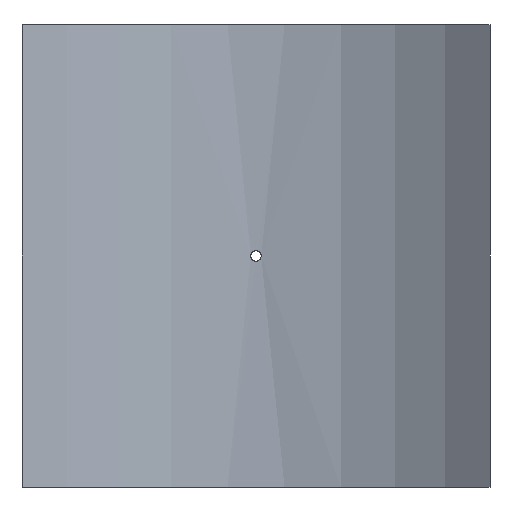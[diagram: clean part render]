
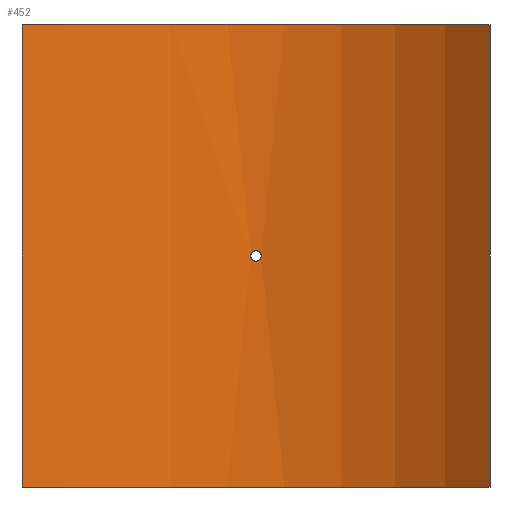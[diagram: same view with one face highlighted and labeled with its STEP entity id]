
A CAD part, front view. The second image highlights one B-rep face of the part: STEP entity #452.
In plain terms, the highlighted cylindrical face has radius 315 mm (diameter 630 mm), a partial arc.
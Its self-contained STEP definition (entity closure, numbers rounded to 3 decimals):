
#19=B_SPLINE_CURVE_WITH_KNOTS('',3,(#788,#789,#790,#791,#792,#793,#794,
#795,#796,#797,#798,#799,#800,#801,#802,#803,#804,#805,#806,#807,#808,#809,
#810,#811,#812,#813,#814,#815,#816,#817,#818,#819,#820,#821),
 .UNSPECIFIED.,.T.,.F.,(4,2,2,2,2,2,2,2,2,2,2,2,2,2,2,2,4),(0.,0.181,
0.362,0.542,0.723,0.904,
1.085,1.266,1.447,1.627,1.808,
1.989,2.17,2.351,2.531,2.712,
2.893),.UNSPECIFIED.);
#43=LINE('',#1065,#62);
#44=LINE('',#1068,#63);
#62=VECTOR('',#661,10.);
#63=VECTOR('',#664,10.);
#76=CYLINDRICAL_SURFACE('',#530,315.);
#88=FACE_BOUND('',#167,.T.);
#127=FACE_OUTER_BOUND('',#166,.T.);
#166=EDGE_LOOP('',(#405,#406,#407,#408));
#167=EDGE_LOOP('',(#409));
#201=CIRCLE('',#529,315.);
#202=CIRCLE('',#531,315.);
#219=VERTEX_POINT('',#786);
#242=VERTEX_POINT('',#1058);
#243=VERTEX_POINT('',#1060);
#244=VERTEX_POINT('',#1064);
#245=VERTEX_POINT('',#1066);
#267=EDGE_CURVE('',#219,#219,#19,.T.);
#299=EDGE_CURVE('',#242,#243,#201,.T.);
#301=EDGE_CURVE('',#244,#242,#43,.T.);
#302=EDGE_CURVE('',#245,#244,#202,.T.);
#303=EDGE_CURVE('',#245,#243,#44,.T.);
#405=ORIENTED_EDGE('',*,*,#301,.F.);
#406=ORIENTED_EDGE('',*,*,#302,.F.);
#407=ORIENTED_EDGE('',*,*,#303,.T.);
#408=ORIENTED_EDGE('',*,*,#299,.F.);
#409=ORIENTED_EDGE('',*,*,#267,.T.);
#452=ADVANCED_FACE('',(#127,#88),#76,.F.);
#529=AXIS2_PLACEMENT_3D('',#1061,#656,#657);
#530=AXIS2_PLACEMENT_3D('',#1063,#659,#660);
#531=AXIS2_PLACEMENT_3D('',#1067,#662,#663);
#656=DIRECTION('center_axis',(0.,0.,1.));
#657=DIRECTION('ref_axis',(0.675,0.738,0.));
#659=DIRECTION('center_axis',(0.,0.,1.));
#660=DIRECTION('ref_axis',(0.675,0.738,0.));
#661=DIRECTION('',(0.,0.,-1.));
#662=DIRECTION('center_axis',(0.,0.,-1.));
#663=DIRECTION('ref_axis',(0.675,0.738,0.));
#664=DIRECTION('',(0.,0.,-1.));
#786=CARTESIAN_POINT('',(4.8,314.963,0.));
#788=CARTESIAN_POINT('Ctrl Pts',(4.8,314.963,0.));
#789=CARTESIAN_POINT('Ctrl Pts',(4.8,314.963,-0.603));
#790=CARTESIAN_POINT('Ctrl Pts',(4.68,314.965,-1.246));
#791=CARTESIAN_POINT('Ctrl Pts',(4.19,314.972,-2.428));
#792=CARTESIAN_POINT('Ctrl Pts',(3.82,314.977,-2.968));
#793=CARTESIAN_POINT('Ctrl Pts',(2.968,314.986,-3.82));
#794=CARTESIAN_POINT('Ctrl Pts',(2.428,314.991,-4.19));
#795=CARTESIAN_POINT('Ctrl Pts',(1.246,314.998,-4.68));
#796=CARTESIAN_POINT('Ctrl Pts',(0.603,315.,-4.8));
#797=CARTESIAN_POINT('Ctrl Pts',(-0.603,315.,-4.8));
#798=CARTESIAN_POINT('Ctrl Pts',(-1.246,314.998,-4.68));
#799=CARTESIAN_POINT('Ctrl Pts',(-2.428,314.991,-4.19));
#800=CARTESIAN_POINT('Ctrl Pts',(-2.968,314.986,-3.82));
#801=CARTESIAN_POINT('Ctrl Pts',(-3.82,314.977,-2.968));
#802=CARTESIAN_POINT('Ctrl Pts',(-4.19,314.972,-2.428));
#803=CARTESIAN_POINT('Ctrl Pts',(-4.68,314.965,-1.246));
#804=CARTESIAN_POINT('Ctrl Pts',(-4.8,314.963,-0.603));
#805=CARTESIAN_POINT('Ctrl Pts',(-4.8,314.963,0.603));
#806=CARTESIAN_POINT('Ctrl Pts',(-4.68,314.965,1.246));
#807=CARTESIAN_POINT('Ctrl Pts',(-4.19,314.972,2.428));
#808=CARTESIAN_POINT('Ctrl Pts',(-3.82,314.977,2.968));
#809=CARTESIAN_POINT('Ctrl Pts',(-2.968,314.986,3.82));
#810=CARTESIAN_POINT('Ctrl Pts',(-2.428,314.991,4.19));
#811=CARTESIAN_POINT('Ctrl Pts',(-1.246,314.998,4.68));
#812=CARTESIAN_POINT('Ctrl Pts',(-0.603,315.,4.8));
#813=CARTESIAN_POINT('Ctrl Pts',(0.603,315.,4.8));
#814=CARTESIAN_POINT('Ctrl Pts',(1.246,314.998,4.68));
#815=CARTESIAN_POINT('Ctrl Pts',(2.428,314.991,4.19));
#816=CARTESIAN_POINT('Ctrl Pts',(2.968,314.986,3.82));
#817=CARTESIAN_POINT('Ctrl Pts',(3.82,314.977,2.968));
#818=CARTESIAN_POINT('Ctrl Pts',(4.19,314.972,2.428));
#819=CARTESIAN_POINT('Ctrl Pts',(4.68,314.965,1.246));
#820=CARTESIAN_POINT('Ctrl Pts',(4.8,314.963,0.603));
#821=CARTESIAN_POINT('Ctrl Pts',(4.8,314.963,0.));
#1058=CARTESIAN_POINT('',(212.5,232.527,-210.));
#1060=CARTESIAN_POINT('',(-212.5,232.527,-210.));
#1061=CARTESIAN_POINT('Origin',(0.,0.,
-210.));
#1063=CARTESIAN_POINT('Origin',(0.,0.,
0.));
#1064=CARTESIAN_POINT('',(212.5,232.527,210.));
#1065=CARTESIAN_POINT('',(212.5,232.527,0.));
#1066=CARTESIAN_POINT('',(-212.5,232.527,210.));
#1067=CARTESIAN_POINT('Origin',(0.,0.,
210.));
#1068=CARTESIAN_POINT('',(-212.5,232.527,0.));
